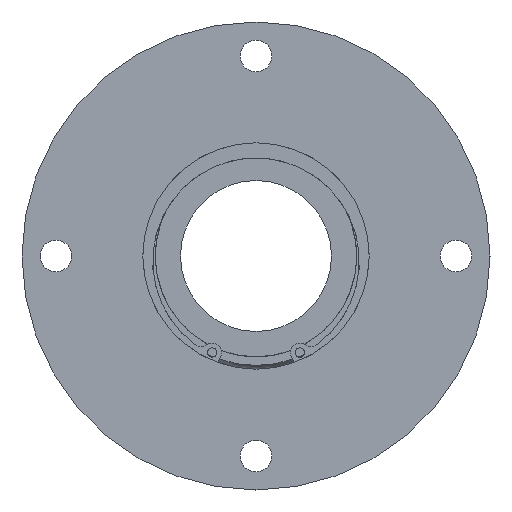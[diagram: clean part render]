
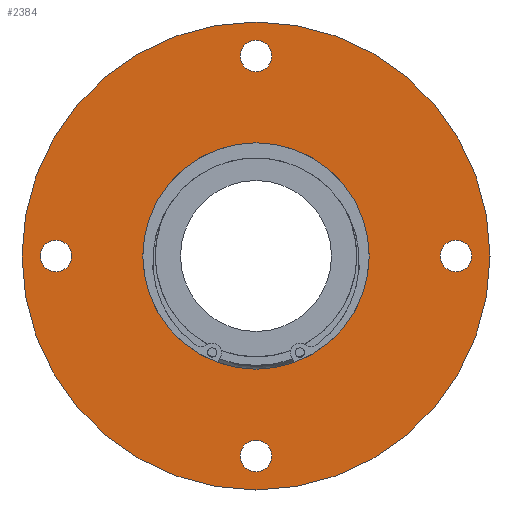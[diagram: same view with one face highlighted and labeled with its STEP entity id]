
A CAD part, left-side view. The second image highlights one B-rep face of the part: STEP entity #2384.
In plain terms, the highlighted planar face has unit normal (-1, 0, 0).
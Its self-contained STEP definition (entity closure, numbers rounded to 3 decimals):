
#1345=CARTESIAN_POINT('',(0.0,53.,-4.188));
#1346=VERTEX_POINT('',#1345);
#1347=CARTESIAN_POINT('',(0.0,53.,0.));
#1348=DIRECTION('',(1.0,0.0,0.0));
#1349=DIRECTION('',(0.0,0.0,-1.0));
#1350=AXIS2_PLACEMENT_3D('',#1347,#1348,#1349);
#1351=CIRCLE('',#1350,4.188);
#1352=EDGE_CURVE('',#1346,#1346,#1351,.T.);
#1373=CARTESIAN_POINT('',(0.0,-4.188,-53.));
#1374=VERTEX_POINT('',#1373);
#1375=CARTESIAN_POINT('',(0.0,0.,-53.));
#1376=DIRECTION('',(1.0,0.0,0.0));
#1377=DIRECTION('',(0.0,-1.0,0.0));
#1378=AXIS2_PLACEMENT_3D('',#1375,#1376,#1377);
#1379=CIRCLE('',#1378,4.188);
#1380=EDGE_CURVE('',#1374,#1374,#1379,.T.);
#1401=CARTESIAN_POINT('',(0.0,-53.,4.188));
#1402=VERTEX_POINT('',#1401);
#1403=CARTESIAN_POINT('',(0.0,-53.,0.));
#1404=DIRECTION('',(1.0,0.0,0.0));
#1405=DIRECTION('',(0.0,0.0,1.0));
#1406=AXIS2_PLACEMENT_3D('',#1403,#1404,#1405);
#1407=CIRCLE('',#1406,4.188);
#1408=EDGE_CURVE('',#1402,#1402,#1407,.T.);
#1429=CARTESIAN_POINT('',(0.0,4.188,53.));
#1430=VERTEX_POINT('',#1429);
#1431=CARTESIAN_POINT('',(0.0,0.,53.));
#1432=DIRECTION('',(1.0,0.0,0.0));
#1433=DIRECTION('',(0.0,1.0,0.0));
#1434=AXIS2_PLACEMENT_3D('',#1431,#1432,#1433);
#1435=CIRCLE('',#1434,4.188);
#1436=EDGE_CURVE('',#1430,#1430,#1435,.T.);
#2332=CARTESIAN_POINT('',(0.0,0.0,30.0));
#2333=VERTEX_POINT('',#2332);
#2334=CARTESIAN_POINT('',(0.0,0.0,0.0));
#2335=DIRECTION('',(-1.0,0.0,0.0));
#2336=DIRECTION('',(0.0,0.0,1.0));
#2337=AXIS2_PLACEMENT_3D('',#2334,#2335,#2336);
#2338=CIRCLE('',#2337,30.0);
#2339=EDGE_CURVE('',#2333,#2333,#2338,.T.);
#2353=CARTESIAN_POINT('',(0.0,0.0,46.0));
#2354=DIRECTION('',(-1.0,0.0,0.0));
#2355=DIRECTION('',(0.0,0.0,1.0));
#2356=AXIS2_PLACEMENT_3D('',#2353,#2354,#2355);
#2357=PLANE('',#2356);
#2358=CARTESIAN_POINT('',(0.0,0.0,62.0));
#2359=VERTEX_POINT('',#2358);
#2360=CARTESIAN_POINT('',(0.0,0.0,0.0));
#2361=DIRECTION('',(-1.0,0.0,0.0));
#2362=DIRECTION('',(0.0,0.0,1.0));
#2363=AXIS2_PLACEMENT_3D('',#2360,#2361,#2362);
#2364=CIRCLE('',#2363,62.0);
#2365=EDGE_CURVE('',#2359,#2359,#2364,.T.);
#2366=ORIENTED_EDGE('',*,*,#2365,.T.);
#2367=EDGE_LOOP('',(#2366));
#2368=FACE_OUTER_BOUND('',#2367,.T.);
#2369=ORIENTED_EDGE('',*,*,#1352,.T.);
#2370=EDGE_LOOP('',(#2369));
#2371=FACE_BOUND('',#2370,.T.);
#2372=ORIENTED_EDGE('',*,*,#1380,.T.);
#2373=EDGE_LOOP('',(#2372));
#2374=FACE_BOUND('',#2373,.T.);
#2375=ORIENTED_EDGE('',*,*,#1408,.T.);
#2376=EDGE_LOOP('',(#2375));
#2377=FACE_BOUND('',#2376,.T.);
#2378=ORIENTED_EDGE('',*,*,#1436,.T.);
#2379=EDGE_LOOP('',(#2378));
#2380=FACE_BOUND('',#2379,.T.);
#2381=ORIENTED_EDGE('',*,*,#2339,.F.);
#2382=EDGE_LOOP('',(#2381));
#2383=FACE_BOUND('',#2382,.T.);
#2384=ADVANCED_FACE('',(#2368,#2371,#2374,#2377,#2380,#2383),#2357,.T.);
